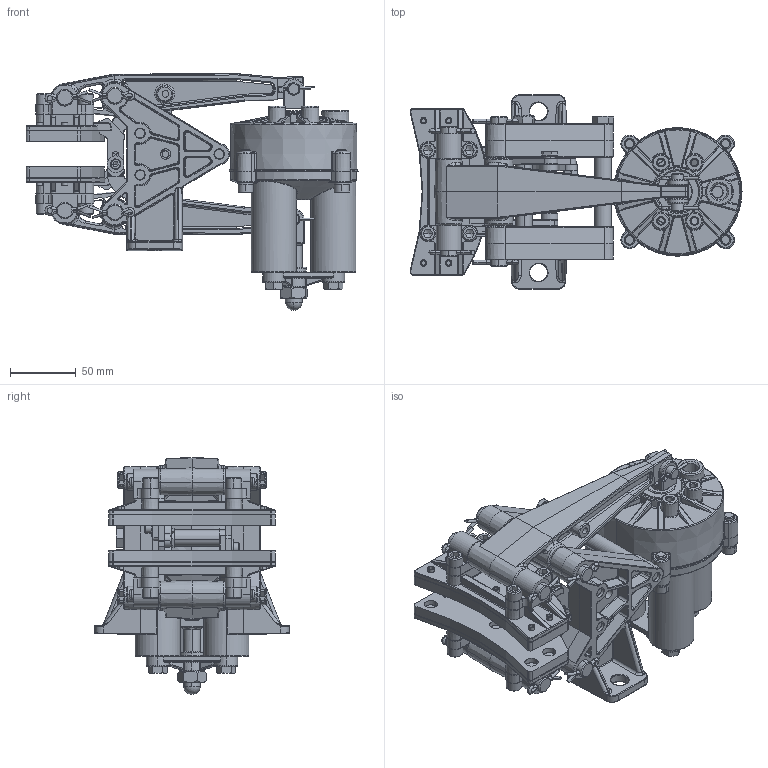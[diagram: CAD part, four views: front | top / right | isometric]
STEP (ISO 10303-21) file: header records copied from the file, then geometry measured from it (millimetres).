
FILE_DESCRIPTION (( 'STEP AP214' ), '1' );
FILE_NAME ('5019-SAW-RH.STEP', '2016-06-02T17:33:40', ( 'User' ), ( 'Microsoft' ), 'SwSTEP 2.0', 'SolidWorks 2015', '' );
FILE_SCHEMA (( 'AUTOMOTIVE_DESIGN' ));
Length unit declared in the file: inch
Products named in the file (1): 5019-SAW-RH
Bounding box: 253.14 x 148.16 x 180.5 mm (x, y, z)
Surface area: 319235.3 mm2 (no closed solid volume)
Topology: 0 solids, 112 shells, 2992 faces, 8600 edges, 5490 vertices
Faces by surface type: cylinder 862, plane 758, bspline 656, cone 383, torus 310, sphere 23
Entity records: 157157 total; most frequent: CARTESIAN_POINT 47707, ORIENTED_EDGE 14671, DIRECTION 13881, EDGE_CURVE 8499, VERTEX_POINT 5490, AXIS2_PLACEMENT_3D 5453, EDGE_LOOP 3247, CIRCLE 3116
